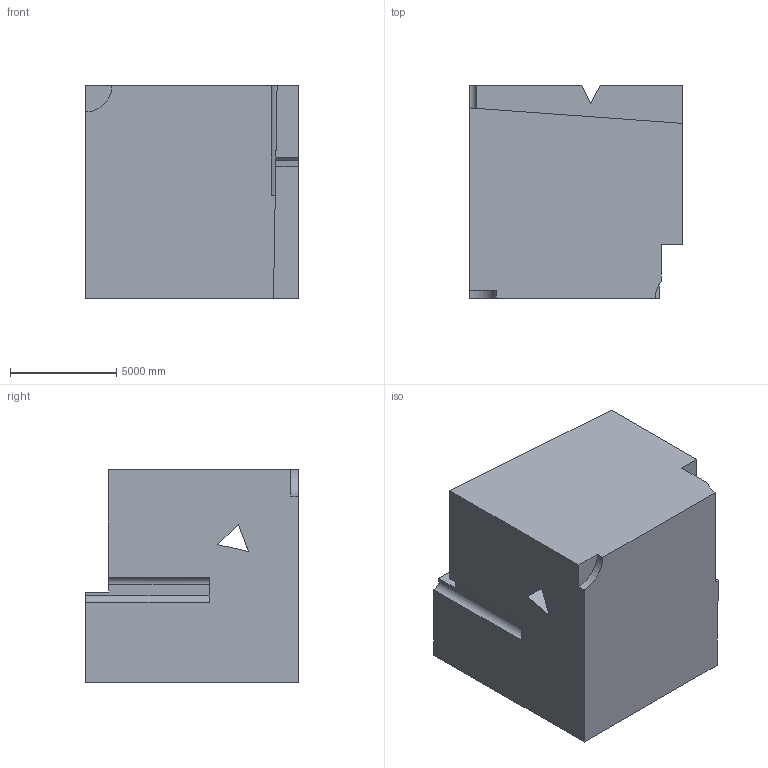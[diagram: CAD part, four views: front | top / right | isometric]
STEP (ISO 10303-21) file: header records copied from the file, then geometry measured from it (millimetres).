
FILE_DESCRIPTION (( 'STEP AP203' ), '1' );
FILE_NAME ('84.STEP', '2022-09-02T14:07:06', ( 'user' ), ( '' ), 'SwSTEP 2.0', 'SolidWorks 2021', '' );
FILE_SCHEMA (( 'CONFIG_CONTROL_DESIGN' ));
Length unit declared in the file: centimetre
Products named in the file (1): 84
Bounding box: 10000 x 10000 x 10000 mm (x, y, z)
Volume: 862471047445.8 mm3; surface area: 649436731.1 mm2
Topology: 1 solids, 1 shells, 33 faces, 90 edges, 60 vertices
Faces by surface type: plane 25, cylinder 8
Entity records: 1120 total; most frequent: CARTESIAN_POINT 190, ORIENTED_EDGE 180, DIRECTION 171, EDGE_CURVE 90, LINE 73, VECTOR 73, VERTEX_POINT 60, AXIS2_PLACEMENT_3D 49
